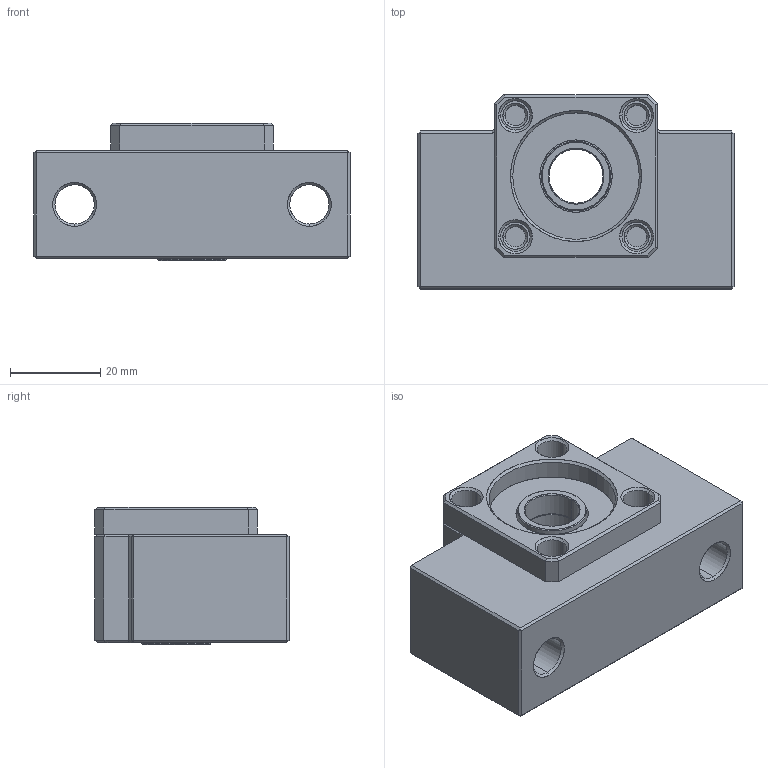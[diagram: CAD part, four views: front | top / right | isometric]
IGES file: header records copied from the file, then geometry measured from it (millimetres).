
Start section: SolidWorks IGES file using analytic representation for surfaces
Global section: file name: E:\同创达图纸\产品示意图\3D选型图\支撑座\AK系列\IGS\AK12.IGS; native system: SolidWorks 2012; preprocessor: SolidWorks 2012; author: gao; date: 130702.201601; units: millimetre
Bounding box: 70 x 43 x 30.5 mm (x, y, z)
Surface area: 17035.4 mm2 (no closed solid volume)
Topology: 0 solids, 0 shells, 170 faces, 2110 edges, 2108 vertices
Faces by surface type: bspline 86, revolution 84
